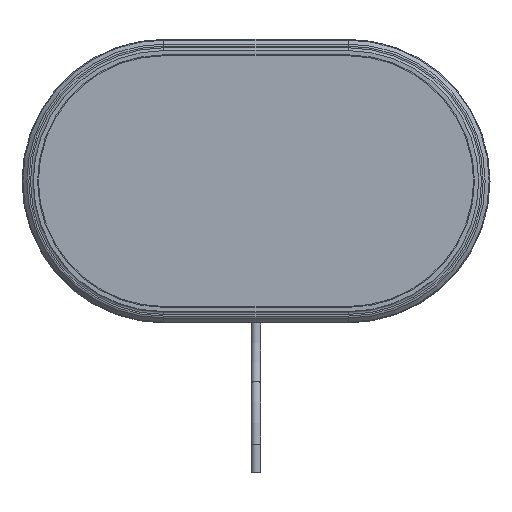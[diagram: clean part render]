
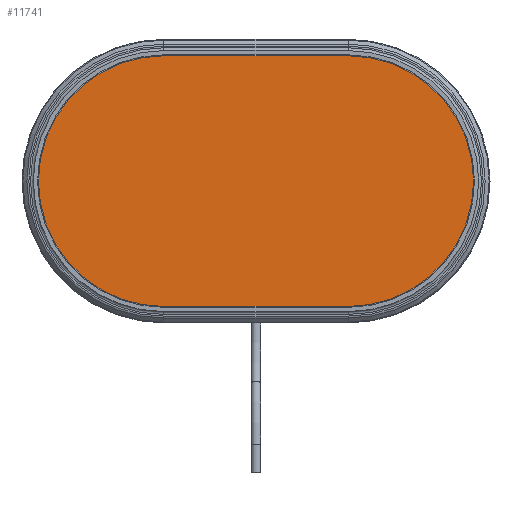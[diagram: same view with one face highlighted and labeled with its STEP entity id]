
A CAD part, front view. The second image highlights one B-rep face of the part: STEP entity #11741.
In plain terms, the highlighted planar face has unit normal (0, -1, 0).
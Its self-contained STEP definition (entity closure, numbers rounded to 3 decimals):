
#515 = ORIENTED_EDGE ( 'NONE', *, *, #6433, .F. ) ;
#1475 = AXIS2_PLACEMENT_3D ( 'NONE', #9454, #20081, #33621 ) ;
#1532 = CARTESIAN_POINT ( 'NONE',  ( -32.5, -3., 44.2 ) ) ;
#1756 = EDGE_CURVE ( 'NONE', #3098, #28403, #3713, .T. ) ;
#3098 = VERTEX_POINT ( 'NONE', #9831 ) ;
#3713 = LINE ( 'NONE', #16596, #7823 ) ;
#4557 = ORIENTED_EDGE ( 'NONE', *, *, #1756, .F. ) ;
#5590 = CARTESIAN_POINT ( 'NONE',  ( 32.5, -3., 44.2 ) ) ;
#5692 = CARTESIAN_POINT ( 'NONE',  ( -32.5, -3., 0. ) ) ;
#6433 = EDGE_CURVE ( 'NONE', #8099, #13439, #32501, .T. ) ;
#7823 = VECTOR ( 'NONE', #11349, 1000. ) ;
#8099 = VERTEX_POINT ( 'NONE', #1532 ) ;
#8792 = EDGE_CURVE ( 'NONE', #13439, #3098, #25669, .T. ) ;
#8948 = AXIS2_PLACEMENT_3D ( 'NONE', #5692, #11435, #16326 ) ;
#9454 = CARTESIAN_POINT ( 'NONE',  ( -32.5, -3., 0. ) ) ;
#9831 = CARTESIAN_POINT ( 'NONE',  ( 32.5, -3., -44.2 ) ) ;
#11349 = DIRECTION ( 'NONE',  ( -1., 0., 0. ) ) ;
#11435 = DIRECTION ( 'NONE',  ( 0., 1., 0. ) ) ;
#11741 = ADVANCED_FACE ( 'NONE', ( #31353 ), #20595, .F. ) ;
#13439 = VERTEX_POINT ( 'NONE', #5590 ) ;
#15579 = DIRECTION ( 'NONE',  ( 0., 1., 0. ) ) ;
#16128 = ORIENTED_EDGE ( 'NONE', *, *, #26054, .F. ) ;
#16326 = DIRECTION ( 'NONE',  ( 0., 0., 1. ) ) ;
#16596 = CARTESIAN_POINT ( 'NONE',  ( -32.5, -3., -44.2 ) ) ;
#17916 = AXIS2_PLACEMENT_3D ( 'NONE', #21474, #15579, #28908 ) ;
#18588 = EDGE_LOOP ( 'NONE', ( #16128, #4557, #22170, #515 ) ) ;
#20081 = DIRECTION ( 'NONE',  ( 0., 1., 0. ) ) ;
#20595 = PLANE ( 'NONE',  #1475 ) ;
#21474 = CARTESIAN_POINT ( 'NONE',  ( 32.5, -3., 0. ) ) ;
#21640 = VECTOR ( 'NONE', #29517, 1000. ) ;
#22170 = ORIENTED_EDGE ( 'NONE', *, *, #8792, .F. ) ;
#23935 = CIRCLE ( 'NONE', #8948, 44.2 ) ;
#25669 = CIRCLE ( 'NONE', #17916, 44.2 ) ;
#26054 = EDGE_CURVE ( 'NONE', #28403, #8099, #23935, .T. ) ;
#27242 = CARTESIAN_POINT ( 'NONE',  ( -32.5, -3., 44.2 ) ) ;
#28403 = VERTEX_POINT ( 'NONE', #31716 ) ;
#28908 = DIRECTION ( 'NONE',  ( 0., 0., 1. ) ) ;
#29517 = DIRECTION ( 'NONE',  ( 1., 0., 0. ) ) ;
#31353 = FACE_OUTER_BOUND ( 'NONE', #18588, .T. ) ;
#31716 = CARTESIAN_POINT ( 'NONE',  ( -32.5, -3., -44.2 ) ) ;
#32501 = LINE ( 'NONE', #27242, #21640 ) ;
#33621 = DIRECTION ( 'NONE',  ( 0., 0., 1. ) ) ;
